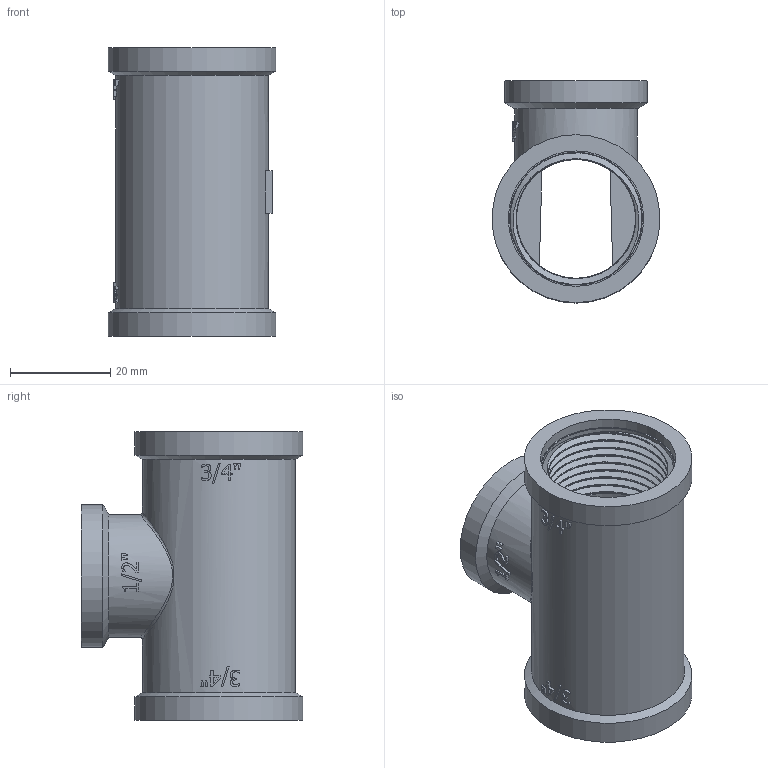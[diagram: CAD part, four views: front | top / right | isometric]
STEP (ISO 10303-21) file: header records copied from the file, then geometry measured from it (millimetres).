
FILE_DESCRIPTION(/* description */ (''),/* implementation_level */ '2;1');
FILE_NAME(/* name */ 'C:\Users\Doom\Desktop\Фадотех\Резьба\T04 18.03.2020\T04 18.03.2020.stp',/* time_stamp */ '2022-01-19T22:09:56+02:00',/* author */ ('Doom'),/* organization */ (''),/* preprocessor_version */ 'ST-DEVELOPER v18',/* originating_system */ 'Autodesk Inventor 2020',/* authorisation */ '');
FILE_SCHEMA (('AUTOMOTIVE_DESIGN { 1 0 10303 214 3 1 1 }'));
Length unit declared in the file: millimetre
Products named in the file (1): T02 18.03.2020
Bounding box: 33.5 x 44.25 x 57.5 mm (x, y, z)
Volume: 20470.7 mm3; surface area: 23312.7 mm2
Topology: 4 solids, 4 shells, 272 faces, 743 edges, 498 vertices
Faces by surface type: plane 132, bspline 73, cylinder 64, cone 3
Full cylindrical faces by diameter (mm): 18.26 x7, 18.63 x1, 20.95 x2, 21.5 x1, 23.75 x18, 24 x1, 24.5 x1, 26.44 x4, 27 x2, 28.5 x1, 30.5 x1, 33.5 x2
Entity records: 23384 total; most frequent: CARTESIAN_POINT 16905, ORIENTED_EDGE 1464, DIRECTION 1118, EDGE_CURVE 732, VERTEX_POINT 493, AXIS2_PLACEMENT_3D 405, LINE 308, VECTOR 308
